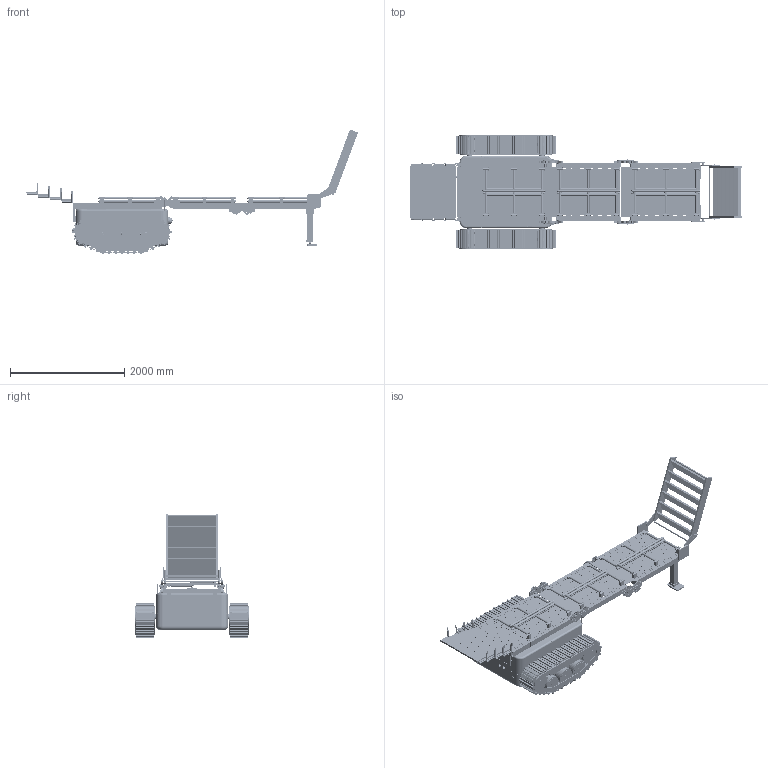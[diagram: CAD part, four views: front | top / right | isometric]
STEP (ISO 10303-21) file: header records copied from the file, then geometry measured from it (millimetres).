
FILE_DESCRIPTION(('Open CASCADE Model'),'2;1');
FILE_NAME('Open CASCADE Shape Model','2026-11-24T20:14:28',('Author'),( 'Open CASCADE'),'Open CASCADE STEP processor 7.9','Open CASCADE 7.9' ,'Unknown');
FILE_SCHEMA(('AUTOMOTIVE_DESIGN { 1 0 10303 214 1 1 1 1 }'));
Length unit declared in the file: centimetre
Products named in the file (676): AKORA_C13c_OPENING_STAGE_03; 01_MAIN_BODY; BODY_LOWER; BODY_LOWER_TUB; BODY_JOINT_FLANGE_INNER; BODY_UPPER; BODY_UPPER_TUB; BODY_JOINT_BEAD; COVER_GASKET; COVER_GASKET_EPDM_10x8; PEDESTAL_GROMMET_600_L; PEDESTAL_GROMMET_600_R; PEDESTAL_GROMMET_1380_L; PEDESTAL_GROMMET_1380_R; SERVICE_PANEL_REAR_GASKET; COVER_INTERLOCK; COVER_SEAT_RING_FEMALE; COVER_LOCKS; COVER_QUARTER_TURN_STUD_01; COVER_RECEPTACLE_01; COVER_QUARTER_TURN_STUD_02; COVER_RECEPTACLE_02; COVER_QUARTER_TURN_STUD_03; COVER_RECEPTACLE_03; COVER_QUARTER_TURN_STUD_04; COVER_RECEPTACLE_04; COVER_QUARTER_TURN_STUD_05; COVER_RECEPTACLE_05; COVER_QUARTER_TURN_STUD_06; COVER_RECEPTACLE_06; COVER_QUARTER_TURN_STUD_07; COVER_RECEPTACLE_07; COVER_QUARTER_TURN_STUD_08; COVER_RECEPTACLE_08; COVER_QUARTER_TURN_STUD_09; COVER_RECEPTACLE_09; COVER_QUARTER_TURN_STUD_10; COVER_RECEPTACLE_10; INTERNAL_FRAME; FRAME_RAIL_L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
Assembly tree (743 placements, depth 5):
  AKORA_C13c_OPENING_STAGE_03
    01_MAIN_BODY
      BODY_LOWER
        BODY_LOWER_TUB
        BODY_JOINT_FLANGE_INNER
      BODY_UPPER
        BODY_UPPER_TUB
        BODY_JOINT_BEAD
      COVER_GASKET
        COVER_GASKET_EPDM_10x8
        PEDESTAL_GROMMET_600_L
        PEDESTAL_GROMMET_600_R
        PEDESTAL_GROMMET_1380_L
        PEDESTAL_GROMMET_1380_R
        SERVICE_PANEL_REAR_GASKET
      COVER_INTERLOCK
        COVER_SEAT_RING_FEMALE
      COVER_LOCKS
        COVER_QUARTER_TURN_STUD_01
        COVER_RECEPTACLE_01
        COVER_QUARTER_TURN_STUD_02
        COVER_RECEPTACLE_02
        COVER_QUARTER_TURN_STUD_03
        COVER_RECEPTACLE_03
        COVER_QUARTER_TURN_STUD_04
        COVER_RECEPTACLE_04
        COVER_QUARTER_TURN_STUD_05
        COVER_RECEPTACLE_05
        COVER_QUARTER_TURN_STUD_06
        COVER_RECEPTACLE_06
        COVER_QUARTER_TURN_STUD_07
        COVER_RECEPTACLE_07
        COVER_QUARTER_TURN_STUD_08
        COVER_RECEPTACLE_08
        COVER_QUARTER_TURN_STUD_09
        COVER_RECEPTACLE_09
        COVER_QUARTER_TURN_STUD_10
        COVER_RECEPTACLE_10
      INTERNAL_FRAME
        FRAME_RAIL_L
        FRAME_RAIL_R
        FRAME_CROSS_1
        FRAME_CROSS_2
        FRAME_CROSS_3
        FRAME_CROSS_4
        FRAME_CROSS_5
        TRACK_MOTOR_PLATE_L
        TRACK_MOTOR_PLATE_R
      MOUNTING_BRACKETS
        FRAME_WALL_BRACKET_L_400
        FRAME_WALL_BRACKET_L_1300
        FRAME_WALL_BRACKET_R_400
        FRAME_WALL_BRACKET_R_1300
        P1_PEDESTAL_600_L
        P1_PEDESTAL_600_R
        P1_PEDESTAL_1380_L
        P1_PEDESTAL_1380_R
        REAR_LANDING_BRACKET_L
        REAR_LANDING_BRACKET_R
      SERVICE_PANELS
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Bounding box: 5807.23 x 1994 x 2184.73 mm (x, y, z)
Volume: 628183892.7 mm3; surface area: 87864523.7 mm2
Topology: 1494 solids, 1498 shells, 16526 faces, 39817 edges, 26536 vertices
Faces by surface type: plane 14101, cylinder 2385, sphere 22, torus 16, revolution 2
Full cylindrical faces by diameter (mm): 8 x18, 9 x20, 9.2 x10, 10 x150, 10.5 x4, 12 x34, 13 x4, 14 x4, 16 x36, 17 x8, 18 x4, 20 x15, 22 x12, 24 x39, 25 x16, 28 x34, 30 x64, 30.6 x40, 32 x22, 34 x36, 36 x4, 37 x54, 40 x96, 41 x8, 42 x54, 44 x11, 48 x24, 56 x2, 60 x5, 62 x4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
Entity records: 931551 total; most frequent: CARTESIAN_POINT 190398, DIRECTION 134825, LINE 95116, VECTOR 95116, ORIENTED_EDGE 69780, PCURVE 69764, DEFINITIONAL_REPRESENTATION 69764, EDGE_CURVE 34882
